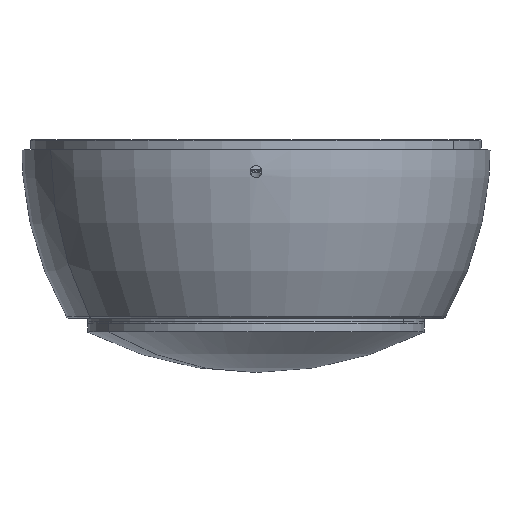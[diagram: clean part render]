
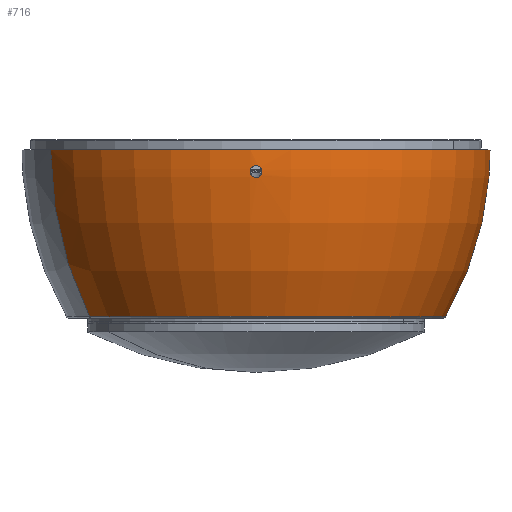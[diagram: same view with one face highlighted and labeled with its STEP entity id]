
A CAD part, top view. The second image highlights one B-rep face of the part: STEP entity #716.
In plain terms, the highlighted face is a revolution surface.
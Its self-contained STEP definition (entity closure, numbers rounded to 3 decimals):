
#507=CARTESIAN_POINT('Vertex',(-60.992,33.32,0.)) ;
#509=CARTESIAN_POINT('Vertex',(60.992,-33.32,0.)) ;
#512=CARTESIAN_POINT('Axis2P3D Location',(0.,0.,0.)) ;
#537=CARTESIAN_POINT('Control Point',(-60.767,33.197,7.127)) ;
#538=CARTESIAN_POINT('Control Point',(-60.064,32.813,18.269)) ;
#539=CARTESIAN_POINT('Control Point',(-57.895,31.628,29.292)) ;
#540=CARTESIAN_POINT('Control Point',(-54.284,29.655,39.813)) ;
#541=CARTESIAN_POINT('Control Point',(-49.399,26.987,49.498)) ;
#542=CARTESIAN_POINT('Vertex',(-60.767,33.197,7.127)) ;
#544=CARTESIAN_POINT('Vertex',(-49.399,26.987,49.498)) ;
#551=CARTESIAN_POINT('Vertex',(49.399,-26.987,49.498)) ;
#555=CARTESIAN_POINT('Control Point',(60.992,-33.32,0.)) ;
#556=CARTESIAN_POINT('Control Point',(60.992,-33.32,12.954)) ;
#557=CARTESIAN_POINT('Control Point',(59.015,-32.24,25.911)) ;
#558=CARTESIAN_POINT('Control Point',(55.064,-30.081,38.267)) ;
#559=CARTESIAN_POINT('Control Point',(49.399,-26.987,49.498)) ;
#562=CARTESIAN_POINT('Control Point',(-60.992,33.32,0.)) ;
#563=CARTESIAN_POINT('Control Point',(-60.992,33.32,1.961)) ;
#564=CARTESIAN_POINT('Control Point',(-60.941,33.292,3.921)) ;
#565=CARTESIAN_POINT('Control Point',(-60.839,33.237,5.878)) ;
#566=CARTESIAN_POINT('Vertex',(-60.839,33.237,5.878)) ;
#643=CARTESIAN_POINT('Control Point',(-69.5,0.,0.)) ;
#644=CARTESIAN_POINT('Control Point',(-69.5,0.,12.954)) ;
#645=CARTESIAN_POINT('Control Point',(-67.247,0.,25.911)) ;
#646=CARTESIAN_POINT('Control Point',(-62.745,0.,38.267)) ;
#647=CARTESIAN_POINT('Control Point',(-56.29,0.,49.498)) ;
#648=CARTESIAN_POINT('Axis1P Location',(0.,0.,25.)) ;
#652=CARTESIAN_POINT('Axis2P3D Location',(0.,0.,49.498)) ;
#658=CARTESIAN_POINT('Control Point',(-60.767,33.197,7.127)) ;
#659=CARTESIAN_POINT('Control Point',(-60.817,33.137,6.926)) ;
#660=CARTESIAN_POINT('Control Point',(-60.848,33.11,6.713)) ;
#661=CARTESIAN_POINT('Control Point',(-60.86,33.117,6.5)) ;
#662=CARTESIAN_POINT('Vertex',(-60.86,33.117,6.5)) ;
#666=CARTESIAN_POINT('Control Point',(-60.86,33.117,6.5)) ;
#667=CARTESIAN_POINT('Control Point',(-60.872,33.124,6.289)) ;
#668=CARTESIAN_POINT('Control Point',(-60.865,33.164,6.077)) ;
#669=CARTESIAN_POINT('Control Point',(-60.839,33.237,5.878)) ;
#681=CARTESIAN_POINT('Control Point',(1.75,-69.265,6.5)) ;
#682=CARTESIAN_POINT('Control Point',(1.75,-69.294,6.057)) ;
#683=CARTESIAN_POINT('Control Point',(1.61,-69.324,5.615)) ;
#684=CARTESIAN_POINT('Control Point',(1.33,-69.352,5.225)) ;
#685=CARTESIAN_POINT('Control Point',(0.743,-69.381,4.818)) ;
#686=CARTESIAN_POINT('Control Point',(0.055,-69.388,4.729)) ;
#687=CARTESIAN_POINT('Control Point',(-0.175,-69.387,4.737)) ;
#688=CARTESIAN_POINT('Control Point',(-0.831,-69.378,4.868)) ;
#689=CARTESIAN_POINT('Control Point',(-1.372,-69.348,5.286)) ;
#690=CARTESIAN_POINT('Control Point',(-1.624,-69.321,5.661)) ;
#691=CARTESIAN_POINT('Control Point',(-1.75,-69.293,6.08)) ;
#692=CARTESIAN_POINT('Control Point',(-1.75,-69.265,6.5)) ;
#693=CARTESIAN_POINT('Vertex',(1.75,-69.265,6.5)) ;
#695=CARTESIAN_POINT('Vertex',(-1.75,-69.265,6.5)) ;
#699=CARTESIAN_POINT('Control Point',(-1.75,-69.265,6.5)) ;
#700=CARTESIAN_POINT('Control Point',(-1.75,-69.236,6.943)) ;
#701=CARTESIAN_POINT('Control Point',(-1.61,-69.208,7.385)) ;
#702=CARTESIAN_POINT('Control Point',(-1.329,-69.185,7.776)) ;
#703=CARTESIAN_POINT('Control Point',(-0.742,-69.161,8.182)) ;
#704=CARTESIAN_POINT('Control Point',(-0.055,-69.156,8.271)) ;
#705=CARTESIAN_POINT('Control Point',(0.175,-69.156,8.263)) ;
#706=CARTESIAN_POINT('Control Point',(0.83,-69.164,8.133)) ;
#707=CARTESIAN_POINT('Control Point',(1.372,-69.188,7.715)) ;
#708=CARTESIAN_POINT('Control Point',(1.624,-69.211,7.34)) ;
#709=CARTESIAN_POINT('Control Point',(1.75,-69.237,6.92)) ;
#710=CARTESIAN_POINT('Control Point',(1.75,-69.265,6.5)) ;
#513=DIRECTION('Axis2P3D Direction',(0.,0.,-1.)) ;
#649=DIRECTION('Axis1P Direction',(0.,0.,-1.)) ;
#653=DIRECTION('Axis2P3D Direction',(0.,0.,-1.)) ;
#514=AXIS2_PLACEMENT_3D('Circle Axis2P3D',#512,#513,$) ;
#654=AXIS2_PLACEMENT_3D('Circle Axis2P3D',#652,#653,$) ;
#672=ORIENTED_EDGE('',*,*,#568,.F.) ;
#673=ORIENTED_EDGE('',*,*,#516,.F.) ;
#674=ORIENTED_EDGE('',*,*,#560,.T.) ;
#675=ORIENTED_EDGE('',*,*,#656,.T.) ;
#676=ORIENTED_EDGE('',*,*,#546,.F.) ;
#677=ORIENTED_EDGE('',*,*,#664,.T.) ;
#678=ORIENTED_EDGE('',*,*,#670,.T.) ;
#713=ORIENTED_EDGE('',*,*,#697,.T.) ;
#714=ORIENTED_EDGE('',*,*,#711,.T.) ;
#715=FACE_BOUND('',#712,.T.) ;
#716=ADVANCED_FACE('\X2\96F64EF651E04F554F53\X0\',(#679,#715),#651,.F.) ;
#650=AXIS1_PLACEMENT('Revolution Surface Axis1P',#648,#649) ;
#536=B_SPLINE_CURVE_WITH_KNOTS('',4,(#537,#538,#539,#540,#541),.UNSPECIFIED.,.F.,.U.,(5,5),(7.133,51.816),.UNSPECIFIED.) ;
#554=B_SPLINE_CURVE_WITH_KNOTS('',4,(#555,#556,#557,#558,#559),.UNSPECIFIED.,.F.,.U.,(5,5),(0.,51.816),.UNSPECIFIED.) ;
#561=B_SPLINE_CURVE_WITH_KNOTS('',3,(#562,#563,#564,#565),.UNSPECIFIED.,.F.,.U.,(4,4),(0.,5.882),.UNSPECIFIED.) ;
#642=B_SPLINE_CURVE_WITH_KNOTS('',4,(#643,#644,#645,#646,#647),.UNSPECIFIED.,.F.,.U.,(5,5),(0.,51.816),.UNSPECIFIED.) ;
#657=B_SPLINE_CURVE_WITH_KNOTS('',3,(#658,#659,#660,#661),.UNSPECIFIED.,.F.,.U.,(4,4),(0.,1.11),.UNSPECIFIED.) ;
#665=B_SPLINE_CURVE_WITH_KNOTS('',3,(#666,#667,#668,#669),.UNSPECIFIED.,.F.,.U.,(4,4),(0.,1.101),.UNSPECIFIED.) ;
#680=B_SPLINE_CURVE_WITH_KNOTS('',5,(#681,#682,#683,#684,#685,#686,#687,#688,#689,#690,#691,#692),.UNSPECIFIED.,.F.,.U.,(6,3,3,6),(0.,3.136,4.674,7.648),.UNSPECIFIED.) ;
#698=B_SPLINE_CURVE_WITH_KNOTS('',5,(#699,#700,#701,#702,#703,#704,#705,#706,#707,#708,#709,#710),.UNSPECIFIED.,.F.,.U.,(6,3,3,6),(0.,3.137,4.677,7.652),.UNSPECIFIED.) ;
#515=CIRCLE('generated circle',#514,69.5) ;
#655=CIRCLE('generated circle',#654,56.29) ;
#516=EDGE_CURVE('',#510,#508,#515,.T.) ;
#546=EDGE_CURVE('',#543,#545,#536,.T.) ;
#560=EDGE_CURVE('',#510,#552,#554,.T.) ;
#568=EDGE_CURVE('',#508,#567,#561,.T.) ;
#656=EDGE_CURVE('',#552,#545,#655,.T.) ;
#664=EDGE_CURVE('',#543,#663,#657,.T.) ;
#670=EDGE_CURVE('',#663,#567,#665,.T.) ;
#697=EDGE_CURVE('',#694,#696,#680,.T.) ;
#711=EDGE_CURVE('',#696,#694,#698,.T.) ;
#671=EDGE_LOOP('',(#672,#673,#674,#675,#676,#677,#678)) ;
#712=EDGE_LOOP('',(#713,#714)) ;
#679=FACE_OUTER_BOUND('',#671,.T.) ;
#651=SURFACE_OF_REVOLUTION('Surface of Revolution',#642,#650) ;
#508=VERTEX_POINT('',#507) ;
#510=VERTEX_POINT('',#509) ;
#543=VERTEX_POINT('',#542) ;
#545=VERTEX_POINT('',#544) ;
#552=VERTEX_POINT('',#551) ;
#567=VERTEX_POINT('',#566) ;
#663=VERTEX_POINT('',#662) ;
#694=VERTEX_POINT('',#693) ;
#696=VERTEX_POINT('',#695) ;
